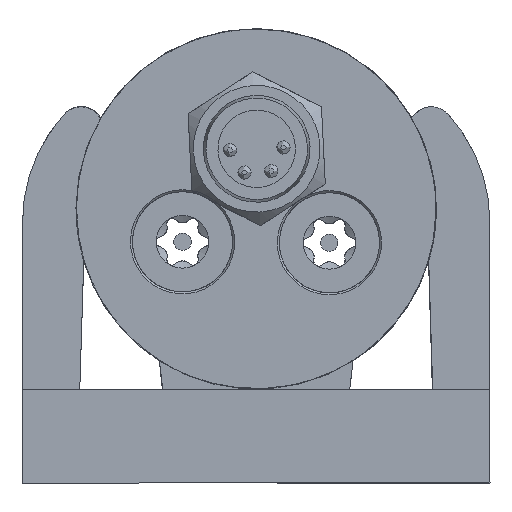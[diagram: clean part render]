
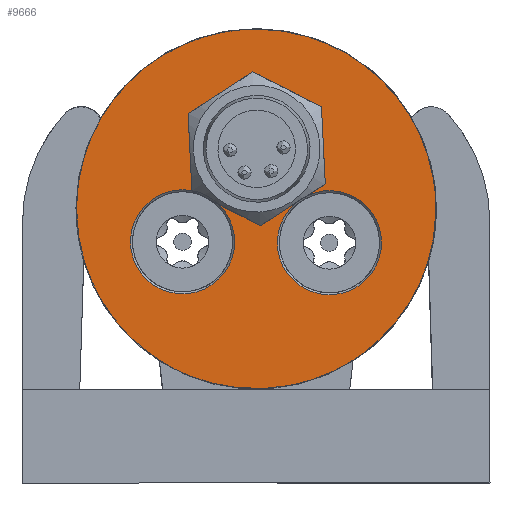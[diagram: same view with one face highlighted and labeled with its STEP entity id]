
A CAD part, front view. The second image highlights one B-rep face of the part: STEP entity #9666.
In plain terms, the highlighted planar face has unit normal (0, -1, 0).
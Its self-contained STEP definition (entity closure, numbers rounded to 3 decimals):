
#240=FACE_BOUND('',#1656,.T.);
#468=B_SPLINE_CURVE_WITH_KNOTS('',3,(#17736,#17737,#17738,#17739,#17740,
#17741,#17742,#17743,#17744,#17745),.UNSPECIFIED.,.F.,.F.,(4,2,2,2,4),(0.,
0.568,1.154,1.74,2.308),
 .UNSPECIFIED.);
#469=B_SPLINE_CURVE_WITH_KNOTS('',3,(#17774,#17775,#17776,#17777,#17778,
#17779,#17780,#17781,#17782,#17783),.UNSPECIFIED.,.F.,.F.,(4,2,2,2,4),(0.,
0.568,1.154,1.74,2.308),
 .UNSPECIFIED.);
#470=B_SPLINE_CURVE_WITH_KNOTS('',3,(#17834,#17835,#17836,#17837,#17838,
#17839,#17840,#17841,#17842,#17843,#17844,#17845,#17846,#17847,#17848,#17849,
#17850,#17851),.UNSPECIFIED.,.F.,.F.,(4,2,2,2,2,2,2,2,4),(0.,0.619,
1.376,2.208,2.895,3.582,4.413,
5.171,5.789),.UNSPECIFIED.);
#733=PLANE('',#10592);
#1126=FACE_OUTER_BOUND('',#1655,.T.);
#1655=EDGE_LOOP('',(#7602,#7603,#7604));
#1656=EDGE_LOOP('',(#7605,#7606,#7607,#7608,#7609,#7610,#7611,#7612,#7613,
#7614,#7615));
#2241=CIRCLE('',#10554,3.9);
#2243=CIRCLE('',#10556,3.9);
#2244=CIRCLE('',#10558,3.9);
#2245=CIRCLE('',#10559,3.9);
#2702=LINE('',#18128,#3206);
#2703=LINE('',#18130,#3207);
#2704=LINE('',#18132,#3208);
#2705=LINE('',#18134,#3209);
#2706=LINE('',#18135,#3210);
#2707=LINE('',#18137,#3211);
#2708=LINE('',#18138,#3212);
#3206=VECTOR('',#12637,10.);
#3207=VECTOR('',#12638,10.);
#3208=VECTOR('',#12639,10.);
#3209=VECTOR('',#12640,10.);
#3210=VECTOR('',#12641,10.);
#3211=VECTOR('',#12642,10.);
#3212=VECTOR('',#12643,10.);
#3724=VERTEX_POINT('',#15190);
#3725=VERTEX_POINT('',#15192);
#4009=VERTEX_POINT('',#17734);
#4010=VERTEX_POINT('',#17735);
#4011=VERTEX_POINT('',#17772);
#4012=VERTEX_POINT('',#17853);
#4013=VERTEX_POINT('',#17854);
#4014=VERTEX_POINT('',#17856);
#4015=VERTEX_POINT('',#17861);
#4019=VERTEX_POINT('',#18127);
#4020=VERTEX_POINT('',#18129);
#4021=VERTEX_POINT('',#18131);
#4022=VERTEX_POINT('',#18133);
#4023=VERTEX_POINT('',#18136);
#5235=EDGE_CURVE('',#4009,#4010,#468,.T.);
#5239=EDGE_CURVE('',#4011,#4009,#469,.T.);
#5240=EDGE_CURVE('',#4010,#4011,#470,.T.);
#5241=EDGE_CURVE('',#4012,#4013,#2241,.T.);
#5243=EDGE_CURVE('',#4013,#4014,#2243,.T.);
#5245=EDGE_CURVE('',#3725,#4015,#2244,.T.);
#5246=EDGE_CURVE('',#4015,#3724,#2245,.T.);
#5279=EDGE_CURVE('',#3724,#4019,#2702,.T.);
#5280=EDGE_CURVE('',#4019,#4020,#2703,.T.);
#5281=EDGE_CURVE('',#4020,#4021,#2704,.T.);
#5282=EDGE_CURVE('',#4021,#4022,#2705,.T.);
#5283=EDGE_CURVE('',#4022,#4012,#2706,.T.);
#5284=EDGE_CURVE('',#4014,#4023,#2707,.T.);
#5285=EDGE_CURVE('',#4023,#3725,#2708,.T.);
#7602=ORIENTED_EDGE('',*,*,#5240,.F.);
#7603=ORIENTED_EDGE('',*,*,#5235,.F.);
#7604=ORIENTED_EDGE('',*,*,#5239,.F.);
#7605=ORIENTED_EDGE('',*,*,#5279,.T.);
#7606=ORIENTED_EDGE('',*,*,#5280,.T.);
#7607=ORIENTED_EDGE('',*,*,#5281,.T.);
#7608=ORIENTED_EDGE('',*,*,#5282,.T.);
#7609=ORIENTED_EDGE('',*,*,#5283,.T.);
#7610=ORIENTED_EDGE('',*,*,#5241,.T.);
#7611=ORIENTED_EDGE('',*,*,#5243,.T.);
#7612=ORIENTED_EDGE('',*,*,#5284,.T.);
#7613=ORIENTED_EDGE('',*,*,#5285,.T.);
#7614=ORIENTED_EDGE('',*,*,#5245,.T.);
#7615=ORIENTED_EDGE('',*,*,#5246,.T.);
#9666=ADVANCED_FACE('',(#1126,#240),#733,.T.);
#10554=AXIS2_PLACEMENT_3D('',#17855,#12554,#12555);
#10556=AXIS2_PLACEMENT_3D('',#17858,#12558,#12559);
#10558=AXIS2_PLACEMENT_3D('',#17862,#12563,#12564);
#10559=AXIS2_PLACEMENT_3D('',#17863,#12565,#12566);
#10592=AXIS2_PLACEMENT_3D('',#18126,#12635,#12636);
#12554=DIRECTION('center_axis',(0.,1.,0.));
#12555=DIRECTION('ref_axis',(1.,0.,-0.006));
#12558=DIRECTION('center_axis',(0.,1.,0.));
#12559=DIRECTION('ref_axis',(1.,0.,-0.006));
#12563=DIRECTION('center_axis',(0.,1.,0.));
#12564=DIRECTION('ref_axis',(1.,0.,-0.006));
#12565=DIRECTION('center_axis',(0.,1.,0.));
#12566=DIRECTION('ref_axis',(1.,0.,-0.006));
#12635=DIRECTION('center_axis',(0.,-1.,0.));
#12636=DIRECTION('ref_axis',(-1.,0.,0.006));
#12637=DIRECTION('',(-0.05,0.,0.999));
#12638=DIRECTION('',(0.84,0.,0.542));
#12639=DIRECTION('',(0.89,0.,-0.456));
#12640=DIRECTION('',(0.05,0.,-0.999));
#12641=DIRECTION('',(-0.84,0.,-0.542));
#12642=DIRECTION('',(-0.84,0.,-0.542));
#12643=DIRECTION('',(-0.89,0.,0.456));
#15190=CARTESIAN_POINT('',(-209.307,-26.103,0.775));
#15192=CARTESIAN_POINT('',(-207.289,-26.103,-0.264));
#17734=CARTESIAN_POINT('',(-204.403,-26.103,12.858));
#17735=CARTESIAN_POINT('',(-191.034,-26.103,-0.685));
#17736=CARTESIAN_POINT('Ctrl Pts',(-204.403,-26.103,12.858));
#17737=CARTESIAN_POINT('Ctrl Pts',(-202.51,-26.103,
12.846));
#17738=CARTESIAN_POINT('Ctrl Pts',(-200.746,-26.103,
12.436));
#17739=CARTESIAN_POINT('Ctrl Pts',(-197.594,-26.103,
11.088));
#17740=CARTESIAN_POINT('Ctrl Pts',(-196.143,-26.103,
10.1));
#17741=CARTESIAN_POINT('Ctrl Pts',(-193.685,-26.103,
7.61));
#17742=CARTESIAN_POINT('Ctrl Pts',(-192.717,-26.103,
6.147));
#17743=CARTESIAN_POINT('Ctrl Pts',(-191.409,-26.103,
2.978));
#17744=CARTESIAN_POINT('Ctrl Pts',(-191.022,-26.103,
1.208));
#17745=CARTESIAN_POINT('Ctrl Pts',(-191.034,-26.103,
-0.685));
#17772=CARTESIAN_POINT('',(-217.946,-26.103,-0.51));
#17774=CARTESIAN_POINT('Ctrl Pts',(-217.946,-26.103,-0.51));
#17775=CARTESIAN_POINT('Ctrl Pts',(-217.934,-26.103,1.382));
#17776=CARTESIAN_POINT('Ctrl Pts',(-217.524,-26.103,3.147));
#17777=CARTESIAN_POINT('Ctrl Pts',(-216.175,-26.103,6.299));
#17778=CARTESIAN_POINT('Ctrl Pts',(-215.188,-26.103,7.749));
#17779=CARTESIAN_POINT('Ctrl Pts',(-212.698,-26.103,10.208));
#17780=CARTESIAN_POINT('Ctrl Pts',(-211.234,-26.103,
11.176));
#17781=CARTESIAN_POINT('Ctrl Pts',(-208.065,-26.103,
12.484));
#17782=CARTESIAN_POINT('Ctrl Pts',(-206.296,-26.103,12.87));
#17783=CARTESIAN_POINT('Ctrl Pts',(-204.403,-26.103,12.858));
#17834=CARTESIAN_POINT('Ctrl Pts',(-191.034,-26.103,
-0.685));
#17835=CARTESIAN_POINT('Ctrl Pts',(-191.048,-26.103,
-2.747));
#17836=CARTESIAN_POINT('Ctrl Pts',(-191.533,-26.103,
-4.491));
#17837=CARTESIAN_POINT('Ctrl Pts',(-192.755,-26.103,-7.41));
#17838=CARTESIAN_POINT('Ctrl Pts',(-193.733,-26.103,-8.867));
#17839=CARTESIAN_POINT('Ctrl Pts',(-196.319,-26.103,-11.458));
#17840=CARTESIAN_POINT('Ctrl Pts',(-197.85,-26.103,-12.42));
#17841=CARTESIAN_POINT('Ctrl Pts',(-200.677,-26.103,-13.576));
#17842=CARTESIAN_POINT('Ctrl Pts',(-202.439,-26.103,-14.067));
#17843=CARTESIAN_POINT('Ctrl Pts',(-206.716,-26.103,-14.039));
#17844=CARTESIAN_POINT('Ctrl Pts',(-208.471,-26.103,-13.525));
#17845=CARTESIAN_POINT('Ctrl Pts',(-211.282,-26.103,-12.333));
#17846=CARTESIAN_POINT('Ctrl Pts',(-212.802,-26.103,-11.351));
#17847=CARTESIAN_POINT('Ctrl Pts',(-215.354,-26.103,-8.727));
#17848=CARTESIAN_POINT('Ctrl Pts',(-216.313,-26.103,-7.257));
#17849=CARTESIAN_POINT('Ctrl Pts',(-217.497,-26.103,-4.323));
#17850=CARTESIAN_POINT('Ctrl Pts',(-217.959,-26.103,-2.572));
#17851=CARTESIAN_POINT('Ctrl Pts',(-217.946,-26.103,-0.51));
#17853=CARTESIAN_POINT('',(-200.676,-26.103,0.391));
#17854=CARTESIAN_POINT('',(-195.847,-26.103,-5.42));
#17855=CARTESIAN_POINT('Origin',(-199.006,-26.103,-3.133));
#17856=CARTESIAN_POINT('',(-201.531,-26.103,-0.16));
#17858=CARTESIAN_POINT('Origin',(-199.006,-26.103,-3.133));
#17861=CARTESIAN_POINT('',(-206.847,-26.103,-5.349));
#17862=CARTESIAN_POINT('Origin',(-210.006,-26.103,-3.062));
#17863=CARTESIAN_POINT('Origin',(-210.006,-26.103,-3.062));
#18126=CARTESIAN_POINT('Origin',(-189.544,-26.103,14.156));
#18127=CARTESIAN_POINT('',(-209.594,-26.103,6.537));
#18128=CARTESIAN_POINT('',(-209.758,-26.103,9.84));
#18129=CARTESIAN_POINT('',(-204.743,-26.103,9.669));
#18130=CARTESIAN_POINT('',(-198.357,-26.103,13.792));
#18131=CARTESIAN_POINT('',(-199.606,-26.103,7.034));
#18132=CARTESIAN_POINT('',(-197.069,-26.103,5.733));
#18133=CARTESIAN_POINT('',(-199.319,-26.103,1.268));
#18134=CARTESIAN_POINT('',(-199.627,-26.103,7.453));
#18135=CARTESIAN_POINT('',(-195.358,-26.103,3.825));
#18136=CARTESIAN_POINT('',(-204.17,-26.103,-1.864));
#18137=CARTESIAN_POINT('',(-195.358,-26.103,3.825));
#18138=CARTESIAN_POINT('',(-204.201,-26.103,-1.848));
